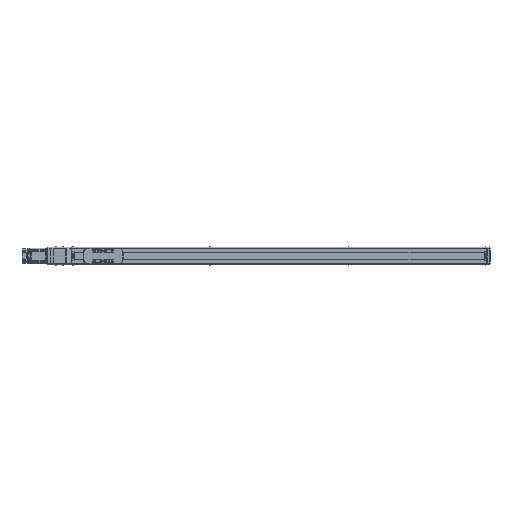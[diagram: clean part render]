
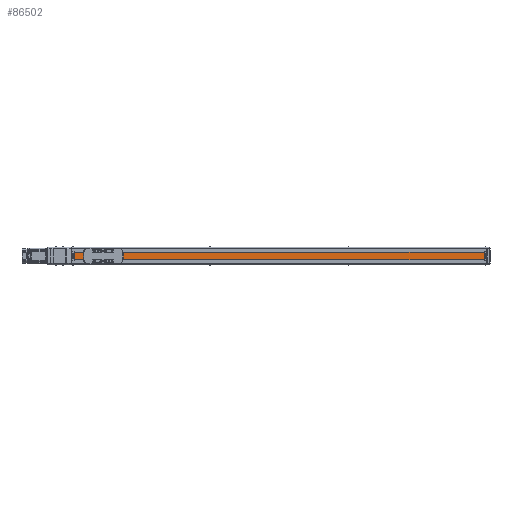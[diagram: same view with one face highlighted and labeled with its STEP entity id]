
A CAD part, top view. The second image highlights one B-rep face of the part: STEP entity #86502.
In plain terms, the highlighted planar face has unit normal (0, 0, 1) as drawn and (0, 1, 0) by its records, which use the part's own axes.
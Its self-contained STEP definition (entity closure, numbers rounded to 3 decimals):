
#86502 = ADVANCED_FACE('',(#86503),#86517,.T.);
#86503 = FACE_BOUND('',#86504,.T.);
#86504 = EDGE_LOOP('',(#86505,#86540,#86568,#86596));
#86505 = ORIENTED_EDGE('',*,*,#86506,.F.);
#86506 = EDGE_CURVE('',#86507,#86509,#86511,.T.);
#86507 = VERTEX_POINT('',#86508);
#86508 = CARTESIAN_POINT('',(-1530.5,18.,-13.));
#86509 = VERTEX_POINT('',#86510);
#86510 = CARTESIAN_POINT('',(-21.5,18.,-13.));
#86511 = SURFACE_CURVE('',#86512,(#86516,#86528),.PCURVE_S1.);
#86512 = LINE('',#86513,#86514);
#86513 = CARTESIAN_POINT('',(-1530.5,18.,-13.));
#86514 = VECTOR('',#86515,1.);
#86515 = DIRECTION('',(1.,0.,0.));
#86516 = PCURVE('',#86517,#86522);
#86517 = PLANE('',#86518);
#86518 = AXIS2_PLACEMENT_3D('',#86519,#86520,#86521);
#86519 = CARTESIAN_POINT('',(-1540.5,18.,-26.583));
#86520 = DIRECTION('',(0.,1.,0.));
#86521 = DIRECTION('',(0.,-0.,1.));
#86522 = DEFINITIONAL_REPRESENTATION('',(#86523),#86527);
#86523 = LINE('',#86524,#86525);
#86524 = CARTESIAN_POINT('',(13.583,10.));
#86525 = VECTOR('',#86526,1.);
#86526 = DIRECTION('',(0.,1.));
#86527 = ( GEOMETRIC_REPRESENTATION_CONTEXT(2) 
PARAMETRIC_REPRESENTATION_CONTEXT() REPRESENTATION_CONTEXT('2D SPACE',''
  ) );
#86528 = PCURVE('',#86529,#86534);
#86529 = PLANE('',#86530);
#86530 = AXIS2_PLACEMENT_3D('',#86531,#86532,#86533);
#86531 = CARTESIAN_POINT('',(-1530.5,18.,-13.));
#86532 = DIRECTION('',(0.,0.,1.));
#86533 = DIRECTION('',(1.,0.,-0.));
#86534 = DEFINITIONAL_REPRESENTATION('',(#86535),#86539);
#86535 = LINE('',#86536,#86537);
#86536 = CARTESIAN_POINT('',(0.,0.));
#86537 = VECTOR('',#86538,1.);
#86538 = DIRECTION('',(1.,0.));
#86539 = ( GEOMETRIC_REPRESENTATION_CONTEXT(2) 
PARAMETRIC_REPRESENTATION_CONTEXT() REPRESENTATION_CONTEXT('2D SPACE',''
  ) );
#86540 = ORIENTED_EDGE('',*,*,#86541,.T.);
#86541 = EDGE_CURVE('',#86507,#86542,#86544,.T.);
#86542 = VERTEX_POINT('',#86543);
#86543 = CARTESIAN_POINT('',(-1530.5,18.,13.));
#86544 = SURFACE_CURVE('',#86545,(#86549,#86556),.PCURVE_S1.);
#86545 = LINE('',#86546,#86547);
#86546 = CARTESIAN_POINT('',(-1530.5,18.,-26.583));
#86547 = VECTOR('',#86548,1.);
#86548 = DIRECTION('',(0.,0.,1.));
#86549 = PCURVE('',#86517,#86550);
#86550 = DEFINITIONAL_REPRESENTATION('',(#86551),#86555);
#86551 = LINE('',#86552,#86553);
#86552 = CARTESIAN_POINT('',(0.,10.));
#86553 = VECTOR('',#86554,1.);
#86554 = DIRECTION('',(1.,0.));
#86555 = ( GEOMETRIC_REPRESENTATION_CONTEXT(2) 
PARAMETRIC_REPRESENTATION_CONTEXT() REPRESENTATION_CONTEXT('2D SPACE',''
  ) );
#86556 = PCURVE('',#86557,#86562);
#86557 = PLANE('',#86558);
#86558 = AXIS2_PLACEMENT_3D('',#86559,#86560,#86561);
#86559 = CARTESIAN_POINT('',(-1530.5,0.,0.));
#86560 = DIRECTION('',(1.,0.,0.));
#86561 = DIRECTION('',(0.,0.,-1.));
#86562 = DEFINITIONAL_REPRESENTATION('',(#86563),#86567);
#86563 = LINE('',#86564,#86565);
#86564 = CARTESIAN_POINT('',(26.583,18.));
#86565 = VECTOR('',#86566,1.);
#86566 = DIRECTION('',(-1.,0.));
#86567 = ( GEOMETRIC_REPRESENTATION_CONTEXT(2) 
PARAMETRIC_REPRESENTATION_CONTEXT() REPRESENTATION_CONTEXT('2D SPACE',''
  ) );
#86568 = ORIENTED_EDGE('',*,*,#86569,.T.);
#86569 = EDGE_CURVE('',#86542,#86570,#86572,.T.);
#86570 = VERTEX_POINT('',#86571);
#86571 = CARTESIAN_POINT('',(-21.5,18.,13.));
#86572 = SURFACE_CURVE('',#86573,(#86577,#86584),.PCURVE_S1.);
#86573 = LINE('',#86574,#86575);
#86574 = CARTESIAN_POINT('',(-1530.5,18.,13.));
#86575 = VECTOR('',#86576,1.);
#86576 = DIRECTION('',(1.,0.,0.));
#86577 = PCURVE('',#86517,#86578);
#86578 = DEFINITIONAL_REPRESENTATION('',(#86579),#86583);
#86579 = LINE('',#86580,#86581);
#86580 = CARTESIAN_POINT('',(39.583,10.));
#86581 = VECTOR('',#86582,1.);
#86582 = DIRECTION('',(0.,1.));
#86583 = ( GEOMETRIC_REPRESENTATION_CONTEXT(2) 
PARAMETRIC_REPRESENTATION_CONTEXT() REPRESENTATION_CONTEXT('2D SPACE',''
  ) );
#86584 = PCURVE('',#86585,#86590);
#86585 = PLANE('',#86586);
#86586 = AXIS2_PLACEMENT_3D('',#86587,#86588,#86589);
#86587 = CARTESIAN_POINT('',(-1530.5,15.,13.));
#86588 = DIRECTION('',(0.,0.,-1.));
#86589 = DIRECTION('',(-1.,0.,0.));
#86590 = DEFINITIONAL_REPRESENTATION('',(#86591),#86595);
#86591 = LINE('',#86592,#86593);
#86592 = CARTESIAN_POINT('',(0.,3.));
#86593 = VECTOR('',#86594,1.);
#86594 = DIRECTION('',(-1.,0.));
#86595 = ( GEOMETRIC_REPRESENTATION_CONTEXT(2) 
PARAMETRIC_REPRESENTATION_CONTEXT() REPRESENTATION_CONTEXT('2D SPACE',''
  ) );
#86596 = ORIENTED_EDGE('',*,*,#86597,.T.);
#86597 = EDGE_CURVE('',#86570,#86509,#86598,.T.);
#86598 = SURFACE_CURVE('',#86599,(#86603,#86610),.PCURVE_S1.);
#86599 = LINE('',#86600,#86601);
#86600 = CARTESIAN_POINT('',(-21.5,18.,-26.583));
#86601 = VECTOR('',#86602,1.);
#86602 = DIRECTION('',(0.,0.,-1.));
#86603 = PCURVE('',#86517,#86604);
#86604 = DEFINITIONAL_REPRESENTATION('',(#86605),#86609);
#86605 = LINE('',#86606,#86607);
#86606 = CARTESIAN_POINT('',(0.,1519.));
#86607 = VECTOR('',#86608,1.);
#86608 = DIRECTION('',(-1.,0.));
#86609 = ( GEOMETRIC_REPRESENTATION_CONTEXT(2) 
PARAMETRIC_REPRESENTATION_CONTEXT() REPRESENTATION_CONTEXT('2D SPACE',''
  ) );
#86610 = PCURVE('',#86611,#86616);
#86611 = PLANE('',#86612);
#86612 = AXIS2_PLACEMENT_3D('',#86613,#86614,#86615);
#86613 = CARTESIAN_POINT('',(-21.5,0.,0.));
#86614 = DIRECTION('',(1.,0.,0.));
#86615 = DIRECTION('',(0.,0.,-1.));
#86616 = DEFINITIONAL_REPRESENTATION('',(#86617),#86621);
#86617 = LINE('',#86618,#86619);
#86618 = CARTESIAN_POINT('',(26.583,18.));
#86619 = VECTOR('',#86620,1.);
#86620 = DIRECTION('',(1.,0.));
#86621 = ( GEOMETRIC_REPRESENTATION_CONTEXT(2) 
PARAMETRIC_REPRESENTATION_CONTEXT() REPRESENTATION_CONTEXT('2D SPACE',''
  ) );
